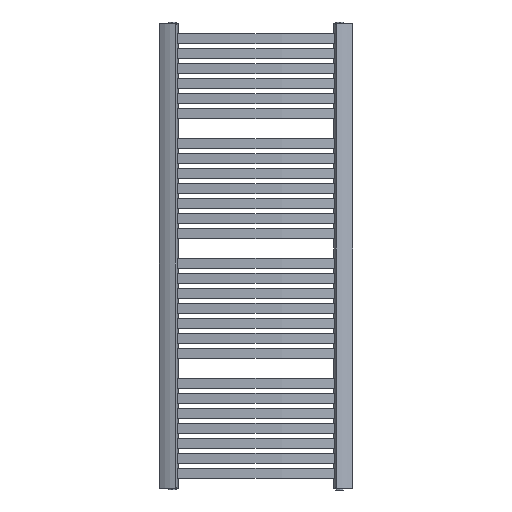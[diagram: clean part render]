
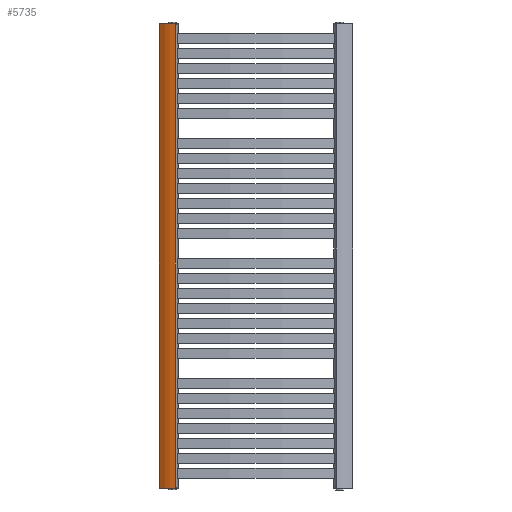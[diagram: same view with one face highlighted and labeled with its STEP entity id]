
A CAD part, left-side view. The second image highlights one B-rep face of the part: STEP entity #5735.
In plain terms, the highlighted cylindrical face has radius 101.419 mm (diameter 202.839 mm), a partial arc.
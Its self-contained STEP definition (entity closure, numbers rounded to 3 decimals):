
#379=CYLINDRICAL_SURFACE('',#6310,101.419);
#628=CIRCLE('',#6311,101.419);
#629=CIRCLE('',#6312,101.419);
#914=FACE_OUTER_BOUND('',#1227,.T.);
#1227=EDGE_LOOP('',(#4951,#4952,#4953,#4954));
#1787=LINE('',#9626,#2319);
#1793=LINE('',#9653,#2325);
#2319=VECTOR('',#7878,10.);
#2325=VECTOR('',#7910,10.);
#2845=VERTEX_POINT('',#9619);
#2848=VERTEX_POINT('',#9624);
#2855=VERTEX_POINT('',#9649);
#2856=VERTEX_POINT('',#9651);
#3628=EDGE_CURVE('',#2845,#2848,#1787,.T.);
#3640=EDGE_CURVE('',#2855,#2845,#628,.T.);
#3641=EDGE_CURVE('',#2856,#2848,#629,.T.);
#3642=EDGE_CURVE('',#2855,#2856,#1793,.T.);
#4951=ORIENTED_EDGE('',*,*,#3640,.T.);
#4952=ORIENTED_EDGE('',*,*,#3628,.T.);
#4953=ORIENTED_EDGE('',*,*,#3641,.F.);
#4954=ORIENTED_EDGE('',*,*,#3642,.F.);
#5735=ADVANCED_FACE('',(#914),#379,.T.);
#6310=AXIS2_PLACEMENT_3D('',#9648,#7904,#7905);
#6311=AXIS2_PLACEMENT_3D('',#9650,#7906,#7907);
#6312=AXIS2_PLACEMENT_3D('',#9652,#7908,#7909);
#7878=DIRECTION('',(0.,0.,1.));
#7904=DIRECTION('center_axis',(0.,0.,1.));
#7905=DIRECTION('ref_axis',(1.,-0.015,0.));
#7906=DIRECTION('center_axis',(0.,0.,1.));
#7907=DIRECTION('ref_axis',(1.,-0.015,0.));
#7908=DIRECTION('center_axis',(0.,0.,1.));
#7909=DIRECTION('ref_axis',(1.,-0.015,0.));
#7910=DIRECTION('',(0.,0.,1.));
#9619=CARTESIAN_POINT('',(5.308,22.798,0.));
#9624=CARTESIAN_POINT('',(5.308,22.798,1395.));
#9626=CARTESIAN_POINT('',(5.308,22.798,0.));
#9648=CARTESIAN_POINT('Origin',(-84.408,-24.499,0.));
#9649=CARTESIAN_POINT('',(17.,-26.062,0.));
#9650=CARTESIAN_POINT('Origin',(-84.408,-24.499,0.));
#9651=CARTESIAN_POINT('',(17.,-26.062,1395.));
#9652=CARTESIAN_POINT('Origin',(-84.408,-24.499,1395.));
#9653=CARTESIAN_POINT('',(17.,-26.062,0.));
